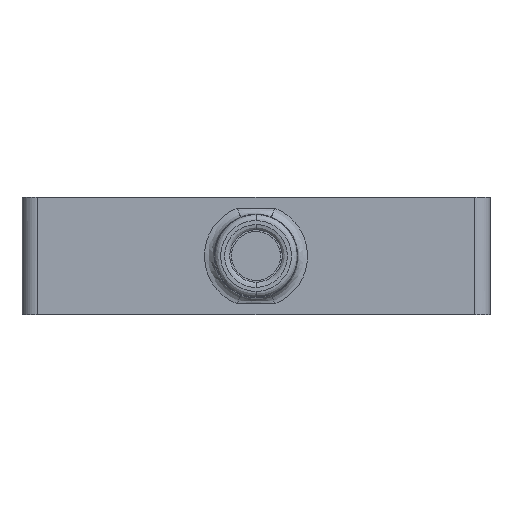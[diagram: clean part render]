
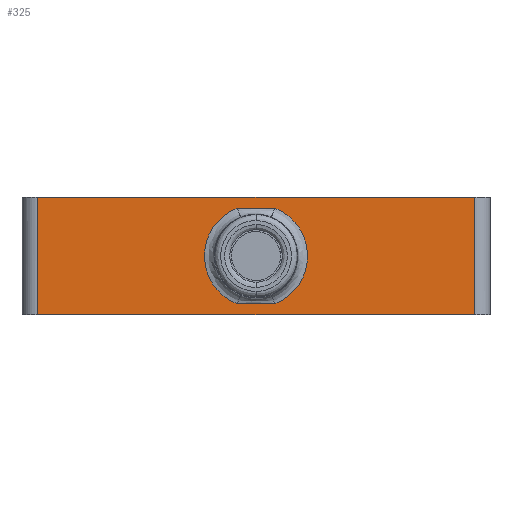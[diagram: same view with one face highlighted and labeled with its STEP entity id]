
A CAD part, front view. The second image highlights one B-rep face of the part: STEP entity #325.
In plain terms, the highlighted free-form (B-spline) face has degree [1, 1] with [2, 2] control points.
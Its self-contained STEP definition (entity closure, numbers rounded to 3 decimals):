
#16 = EDGE_CURVE ( 'NONE', #1986, #4312, #2482, .T. ) ;
#125 = CARTESIAN_POINT ( 'NONE',  ( 8.389, -2.3, 5.45 ) ) ;
#148 = EDGE_CURVE ( 'NONE', #6440, #6102, #351, .T. ) ;
#257 = CARTESIAN_POINT ( 'NONE',  ( -1.8, -2.3, 6. ) ) ;
#325 = ADVANCED_FACE ( 'NONE', ( #3137, #1496 ), #4629, .T. ) ;
#351 = B_SPLINE_CURVE_WITH_KNOTS ( 'NONE', 1,
 ( #2098, #4938 ),
 .UNSPECIFIED., .F., .F.,
 ( 2, 2 ),
 ( 0., 1. ),
 .UNSPECIFIED. ) ;
#397 = VERTEX_POINT ( 'NONE', #3869 ) ;
#401 = EDGE_CURVE ( 'NONE', #5614, #2980, #5536, .T. ) ;
#566 = CARTESIAN_POINT ( 'NONE',  ( 6.88, -2.3, 4.048 ) ) ;
#570 = CARTESIAN_POINT ( 'NONE',  ( -1.8, -2.3, 0. ) ) ;
#664 = ORIENTED_EDGE ( 'NONE', *, *, #2324, .T. ) ;
#1227 = CARTESIAN_POINT ( 'NONE',  ( -1.8, -2.3, 6. ) ) ;
#1405 = CARTESIAN_POINT ( 'NONE',  ( 8.389, -2.3, 0.55 ) ) ;
#1496 = FACE_OUTER_BOUND ( 'NONE', #7157, .T. ) ;
#1664 = CARTESIAN_POINT ( 'NONE',  ( 10.8, -2.3, 5.258 ) ) ;
#1728 = CARTESIAN_POINT ( 'NONE',  ( 10.8, -2.3, 0.742 ) ) ;
#1942 = B_SPLINE_CURVE_WITH_KNOTS ( 'NONE', 1,
 ( #1227, #570 ),
 .UNSPECIFIED., .F., .F.,
 ( 2, 2 ),
 ( 0., 1. ),
 .UNSPECIFIED. ) ;
#1986 = VERTEX_POINT ( 'NONE', #5824 ) ;
#2042 = ORIENTED_EDGE ( 'NONE', *, *, #5290, .T. ) ;
#2098 = CARTESIAN_POINT ( 'NONE',  ( 10.311, -2.3, 0.55 ) ) ;
#2133 = B_SPLINE_CURVE_WITH_KNOTS ( 'NONE', 3,
 ( #3896, #1664, #6652, #3169, #7384, #7322, #4606, #5961, #1728, #3101 ),
 .UNSPECIFIED., .F., .F.,
 ( 4, 2, 2, 2, 4 ),
 ( 0., 0.599, 1.197, 1.796, 2.394 ),
 .UNSPECIFIED. ) ;
#2213 = ORIENTED_EDGE ( 'NONE', *, *, #401, .T. ) ;
#2324 = EDGE_CURVE ( 'NONE', #4312, #5614, #5819, .T. ) ;
#2366 = VERTEX_POINT ( 'NONE', #5686 ) ;
#2482 = B_SPLINE_CURVE_WITH_KNOTS ( 'NONE', 1,
 ( #2623, #6853 ),
 .UNSPECIFIED., .F., .F.,
 ( 2, 2 ),
 ( 0., 1. ),
 .UNSPECIFIED. ) ;
#2623 = CARTESIAN_POINT ( 'NONE',  ( -1.8, -2.3, 0. ) ) ;
#2658 = CARTESIAN_POINT ( 'NONE',  ( 7.9, -2.3, 0.742 ) ) ;
#2689 = CARTESIAN_POINT ( 'NONE',  ( 8.389, -2.3, 5.45 ) ) ;
#2821 = ORIENTED_EDGE ( 'NONE', *, *, #4123, .T. ) ;
#2980 = VERTEX_POINT ( 'NONE', #5927 ) ;
#3101 = CARTESIAN_POINT ( 'NONE',  ( 10.311, -2.3, 0.55 ) ) ;
#3137 = FACE_BOUND ( 'NONE', #8951, .T. ) ;
#3169 = CARTESIAN_POINT ( 'NONE',  ( 11.82, -2.3, 4.048 ) ) ;
#3340 = CARTESIAN_POINT ( 'NONE',  ( -1.8, -2.3, 6. ) ) ;
#3389 = CARTESIAN_POINT ( 'NONE',  ( 7.472, -2.3, 1.083 ) ) ;
#3869 = CARTESIAN_POINT ( 'NONE',  ( 8.389, -2.3, 5.45 ) ) ;
#3896 = CARTESIAN_POINT ( 'NONE',  ( 10.311, -2.3, 5.45 ) ) ;
#4117 = CARTESIAN_POINT ( 'NONE',  ( 6.719, -2.3, 3.526 ) ) ;
#4123 = EDGE_CURVE ( 'NONE', #6102, #397, #7801, .T. ) ;
#4312 = VERTEX_POINT ( 'NONE', #8885 ) ;
#4606 = CARTESIAN_POINT ( 'NONE',  ( 11.82, -2.3, 1.952 ) ) ;
#4629 = B_SPLINE_SURFACE_WITH_KNOTS ( 'NONE', 1, 1, ( 
 ( #6628, #257 ),
 ( #7978, #5167 ) ),
 .UNSPECIFIED., .F., .F., .F.,
 ( 2, 2 ),
 ( 2, 2 ),
 ( 0., 1. ),
 ( 0., 1. ),
 .UNSPECIFIED. ) ;
#4938 = CARTESIAN_POINT ( 'NONE',  ( 8.389, -2.3, 0.55 ) ) ;
#5167 = CARTESIAN_POINT ( 'NONE',  ( 20.5, -2.3, 6. ) ) ;
#5290 = EDGE_CURVE ( 'NONE', #2366, #6440, #2133, .T. ) ;
#5506 = CARTESIAN_POINT ( 'NONE',  ( 8.389, -2.3, 0.55 ) ) ;
#5536 = B_SPLINE_CURVE_WITH_KNOTS ( 'NONE', 1,
 ( #8832, #3340 ),
 .UNSPECIFIED., .F., .F.,
 ( 2, 2 ),
 ( 0., 1. ),
 .UNSPECIFIED. ) ;
#5540 = CARTESIAN_POINT ( 'NONE',  ( 7.472, -2.3, 4.917 ) ) ;
#5614 = VERTEX_POINT ( 'NONE', #7751 ) ;
#5686 = CARTESIAN_POINT ( 'NONE',  ( 10.311, -2.3, 5.45 ) ) ;
#5812 = CARTESIAN_POINT ( 'NONE',  ( 10.311, -2.3, 5.45 ) ) ;
#5819 = B_SPLINE_CURVE_WITH_KNOTS ( 'NONE', 1,
 ( #7666, #8402 ),
 .UNSPECIFIED., .F., .F.,
 ( 2, 2 ),
 ( 0., 1. ),
 .UNSPECIFIED. ) ;
#5824 = CARTESIAN_POINT ( 'NONE',  ( -1.8, -2.3, 0. ) ) ;
#5893 = ORIENTED_EDGE ( 'NONE', *, *, #16, .T. ) ;
#5927 = CARTESIAN_POINT ( 'NONE',  ( -1.8, -2.3, 6. ) ) ;
#5961 = CARTESIAN_POINT ( 'NONE',  ( 11.228, -2.3, 1.083 ) ) ;
#6102 = VERTEX_POINT ( 'NONE', #5506 ) ;
#6243 = CARTESIAN_POINT ( 'NONE',  ( 7.9, -2.3, 5.258 ) ) ;
#6440 = VERTEX_POINT ( 'NONE', #8170 ) ;
#6628 = CARTESIAN_POINT ( 'NONE',  ( -1.8, -2.3, 0. ) ) ;
#6652 = CARTESIAN_POINT ( 'NONE',  ( 11.228, -2.3, 4.917 ) ) ;
#6833 = EDGE_CURVE ( 'NONE', #2980, #1986, #1942, .T. ) ;
#6853 = CARTESIAN_POINT ( 'NONE',  ( 20.5, -2.3, 0. ) ) ;
#7058 = ORIENTED_EDGE ( 'NONE', *, *, #6833, .T. ) ;
#7083 = B_SPLINE_CURVE_WITH_KNOTS ( 'NONE', 1,
 ( #125, #5812 ),
 .UNSPECIFIED., .F., .F.,
 ( 2, 2 ),
 ( 0., 1. ),
 .UNSPECIFIED. ) ;
#7157 = EDGE_LOOP ( 'NONE', ( #2213, #7058, #5893, #664 ) ) ;
#7322 = CARTESIAN_POINT ( 'NONE',  ( 11.981, -2.3, 2.474 ) ) ;
#7384 = CARTESIAN_POINT ( 'NONE',  ( 11.981, -2.3, 3.526 ) ) ;
#7666 = CARTESIAN_POINT ( 'NONE',  ( 20.5, -2.3, 0. ) ) ;
#7672 = EDGE_CURVE ( 'NONE', #397, #2366, #7083, .T. ) ;
#7687 = CARTESIAN_POINT ( 'NONE',  ( 6.719, -2.3, 2.474 ) ) ;
#7751 = CARTESIAN_POINT ( 'NONE',  ( 20.5, -2.3, 6. ) ) ;
#7801 = B_SPLINE_CURVE_WITH_KNOTS ( 'NONE', 3,
 ( #1405, #2658, #3389, #8333, #7687, #4117, #566, #5540, #6243, #2689 ),
 .UNSPECIFIED., .F., .F.,
 ( 4, 2, 2, 2, 4 ),
 ( 0., 0.599, 1.197, 1.796, 2.394 ),
 .UNSPECIFIED. ) ;
#7978 = CARTESIAN_POINT ( 'NONE',  ( 20.5, -2.3, 0. ) ) ;
#8103 = ORIENTED_EDGE ( 'NONE', *, *, #7672, .T. ) ;
#8170 = CARTESIAN_POINT ( 'NONE',  ( 10.311, -2.3, 0.55 ) ) ;
#8333 = CARTESIAN_POINT ( 'NONE',  ( 6.88, -2.3, 1.952 ) ) ;
#8402 = CARTESIAN_POINT ( 'NONE',  ( 20.5, -2.3, 6. ) ) ;
#8832 = CARTESIAN_POINT ( 'NONE',  ( 20.5, -2.3, 6. ) ) ;
#8885 = CARTESIAN_POINT ( 'NONE',  ( 20.5, -2.3, 0. ) ) ;
#8951 = EDGE_LOOP ( 'NONE', ( #9127, #2821, #8103, #2042 ) ) ;
#9127 = ORIENTED_EDGE ( 'NONE', *, *, #148, .T. ) ;
